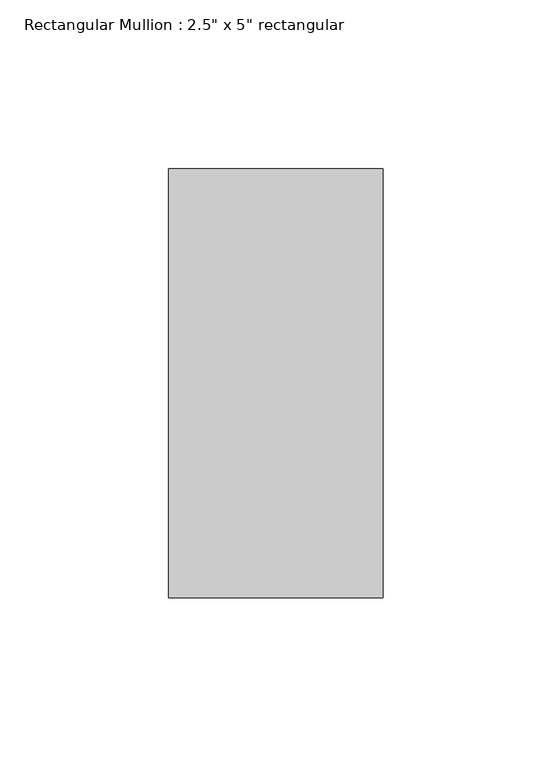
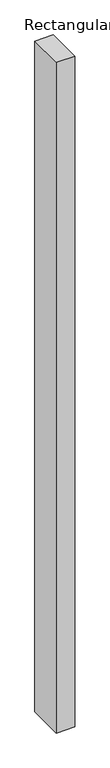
"""IFC4 building model written with IfcOpenShell, lengths in millimetres: member geometry."""

from ifc_helpers import new_model, si_unit, frame, origin, place, context, project, spatial, polyline, outline, extrude, source, transform, mapped, element, save


def member_ee409385(model_context):
    return source(origin(), model_context, "Body", "SweptSolid", [
        extrude(outline(polyline([(0.0, 63.5), (0.0, -63.5), (-63.5, -63.5), (-63.5, 63.5), (0.0, 63.5)])), frame((0.0, 0.0, -2438.4), z_axis=(0.0, 0.0, 1.0), x_axis=(1.0, 0.0, 0.0)), (0.0, 0.0, 1.0), 2438.4),
    ])


if __name__ == "__main__":
    model = new_model("IFC4")
    model_context = context("Model", 3, world=origin())
    ifc_project = project(units=[si_unit("LENGTHUNIT", "METRE", prefix="MILLI")], contexts=[model_context])
    site = spatial("IfcSite", under=ifc_project)
    building = spatial("IfcBuilding", under=site)
    placement = place(None, origin())
    member_shape = member_ee409385(model_context)
    element("IfcMember", 1, ObjectType="Rectangular Mullion : 2.5\" x 5\" rectangular", at=placement, inside=building, context=model_context, shape_type="MappedRepresentation", body=[
        mapped(member_shape, transform((0.0, 0.0, 0.0), x_axis=(1.0, 0.0, 0.0), y_axis=(0.0, 1.0, 0.0), z_axis=(0.0, 0.0, 1.0))),
    ])
    save(model, "model.ifc")
